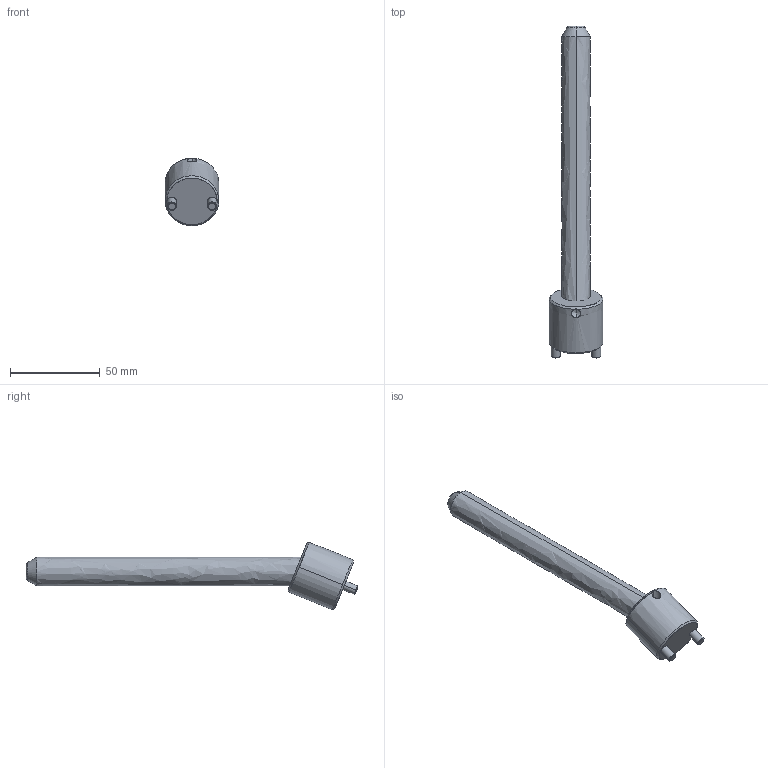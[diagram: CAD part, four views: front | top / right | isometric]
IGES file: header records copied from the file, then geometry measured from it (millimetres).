
Start section: START RECORD GO HERE.
Global section: file name: CI2216150.igs; native system: DASSAULT SYSTEMES CATIA V5 R20 - www.3ds.com; preprocessor: CATIA Version 5 Release 20 ; author: r.borello; organization: CFTORINO; date: 20190624.084911; units: millimetre
Bounding box: 30 x 184.79 x 37.53 mm (x, y, z)
Surface area: 14456.7 mm2 (no closed solid volume)
Topology: 0 solids, 0 shells, 39 faces, 168 edges, 166 vertices
Faces by surface type: revolution 32, plane 7
